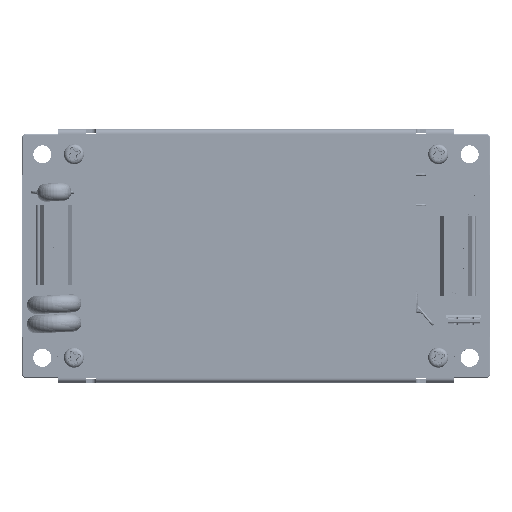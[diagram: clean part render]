
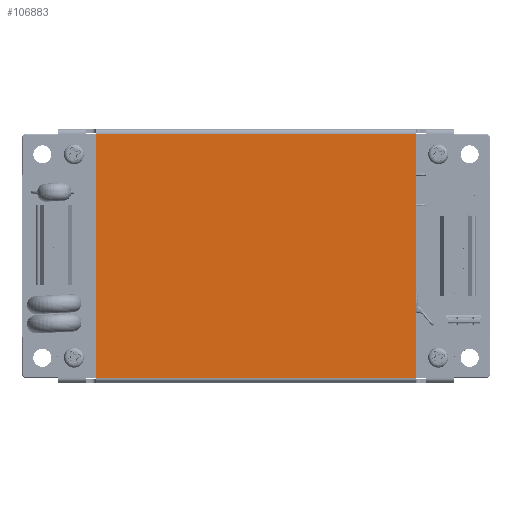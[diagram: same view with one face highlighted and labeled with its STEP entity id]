
A CAD part, top view. The second image highlights one B-rep face of the part: STEP entity #106883.
In plain terms, the highlighted planar face has unit normal (0, 0, 1).
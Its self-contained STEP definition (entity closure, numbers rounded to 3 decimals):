
#1626 = DIRECTION ( 'NONE',  ( 1., 0., 0. ) ) ;
#1833 = PLANE ( 'NONE',  #111233 ) ;
#5184 = CARTESIAN_POINT ( 'NONE',  ( 56.992, 40.707, 16.6 ) ) ;
#6557 = VERTEX_POINT ( 'NONE', #95400 ) ;
#9271 = VERTEX_POINT ( 'NONE', #78339 ) ;
#11199 = CARTESIAN_POINT ( 'NONE',  ( 56.992, 40.707, 16.6 ) ) ;
#11926 = DIRECTION ( 'NONE',  ( 0., 1., 0. ) ) ;
#18371 = CARTESIAN_POINT ( 'NONE',  ( -23.008, -20.253, 16.6 ) ) ;
#19928 = DIRECTION ( 'NONE',  ( -1., 0., 0. ) ) ;
#21414 = EDGE_LOOP ( 'NONE', ( #103034, #101695, #63263, #63705 ) ) ;
#28624 = LINE ( 'NONE', #11199, #89199 ) ;
#30466 = VERTEX_POINT ( 'NONE', #5184 ) ;
#35919 = CARTESIAN_POINT ( 'NONE',  ( -23.008, -20.253, 16.6 ) ) ;
#37837 = DIRECTION ( 'NONE',  ( 0., -1., 0. ) ) ;
#41373 = CARTESIAN_POINT ( 'NONE',  ( -23.008, -20.453, 16.6 ) ) ;
#44815 = EDGE_CURVE ( 'NONE', #30466, #6557, #28624, .T. ) ;
#46804 = CARTESIAN_POINT ( 'NONE',  ( 56.992, -20.453, 16.6 ) ) ;
#51703 = VECTOR ( 'NONE', #11926, 1000. ) ;
#53938 = LINE ( 'NONE', #35919, #105925 ) ;
#55278 = FACE_OUTER_BOUND ( 'NONE', #21414, .T. ) ;
#59386 = DIRECTION ( 'NONE',  ( 0., 1., 0. ) ) ;
#63263 = ORIENTED_EDGE ( 'NONE', *, *, #103191, .F. ) ;
#63435 = CARTESIAN_POINT ( 'NONE',  ( -23.008, -20.453, 16.6 ) ) ;
#63705 = ORIENTED_EDGE ( 'NONE', *, *, #109696, .T. ) ;
#78339 = CARTESIAN_POINT ( 'NONE',  ( 56.992, -20.253, 16.6 ) ) ;
#89004 = EDGE_CURVE ( 'NONE', #9271, #30466, #91539, .T. ) ;
#89199 = VECTOR ( 'NONE', #19928, 1000. ) ;
#91539 = LINE ( 'NONE', #46804, #51703 ) ;
#91858 = DIRECTION ( 'NONE',  ( 0., 0., 1. ) ) ;
#95400 = CARTESIAN_POINT ( 'NONE',  ( -23.008, 40.707, 16.6 ) ) ;
#96542 = LINE ( 'NONE', #41373, #109283 ) ;
#101695 = ORIENTED_EDGE ( 'NONE', *, *, #44815, .T. ) ;
#103034 = ORIENTED_EDGE ( 'NONE', *, *, #89004, .T. ) ;
#103191 = EDGE_CURVE ( 'NONE', #111716, #6557, #96542, .T. ) ;
#105925 = VECTOR ( 'NONE', #1626, 1000. ) ;
#106883 = ADVANCED_FACE ( 'NONE', ( #55278 ), #1833, .T. ) ;
#109283 = VECTOR ( 'NONE', #59386, 1000. ) ;
#109696 = EDGE_CURVE ( 'NONE', #111716, #9271, #53938, .T. ) ;
#111233 = AXIS2_PLACEMENT_3D ( 'NONE', #63435, #91858, #37837 ) ;
#111716 = VERTEX_POINT ( 'NONE', #18371 ) ;
